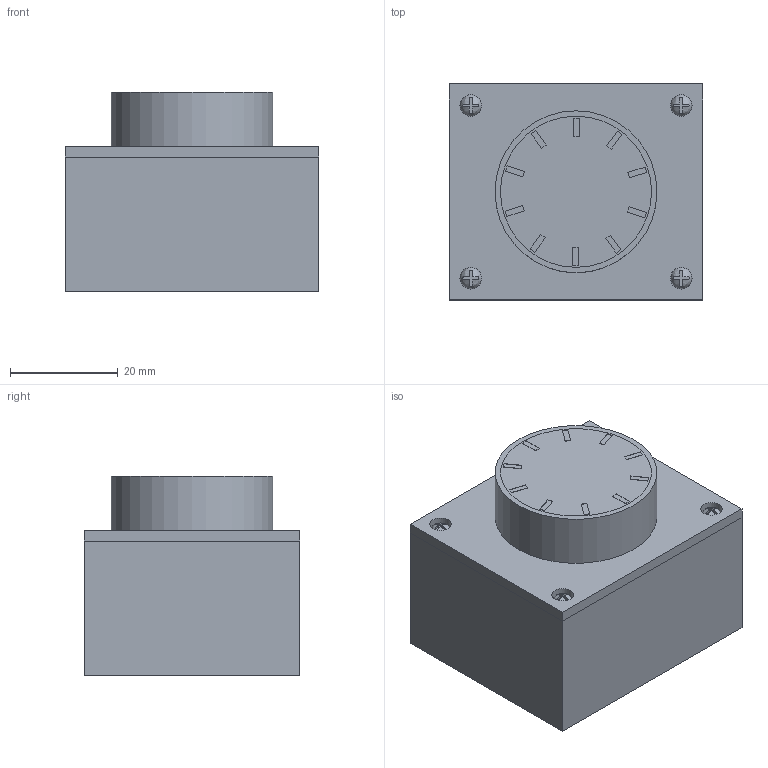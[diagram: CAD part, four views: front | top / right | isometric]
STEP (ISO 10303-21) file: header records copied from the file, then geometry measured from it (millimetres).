
FILE_DESCRIPTION(/* description */ (''),/* implementation_level */ '2;1');
FILE_NAME(/* name */ 'D:\CHINT2\NR2\Вспомогательный контакт таймер F5-T0.stp',/* time_stamp */ '2017-11-15T20:30:24+03:00',/* author */ ('RSagdiev'),/* organization */ (''),/* preprocessor_version */ 'ST-DEVELOPER v16.5',/* originating_system */ 'Autodesk Inventor 2017',/* authorisation */ '');
FILE_SCHEMA (('AUTOMOTIVE_DESIGN { 1 0 10303 214 3 1 1 }'));
Length unit declared in the file: millimetre
Products named in the file (1): Вспомогательный 
контакт таймер 
F5-T0
Bounding box: 47 x 40 x 37.05 mm (x, y, z)
Volume: 57788.7 mm3; surface area: 16596.1 mm2
Topology: 8 solids, 8 shells, 129 faces, 297 edges, 198 vertices
Faces by surface type: plane 110, cylinder 15, bspline 4
Full cylindrical faces by diameter (mm): 4 x12, 28 x2, 30 x1
Entity records: 3869 total; most frequent: CARTESIAN_POINT 946, ORIENTED_EDGE 564, DIRECTION 552, EDGE_CURVE 282, VERTEX_POINT 198, LINE 192, VECTOR 192, AXIS2_PLACEMENT_3D 180
